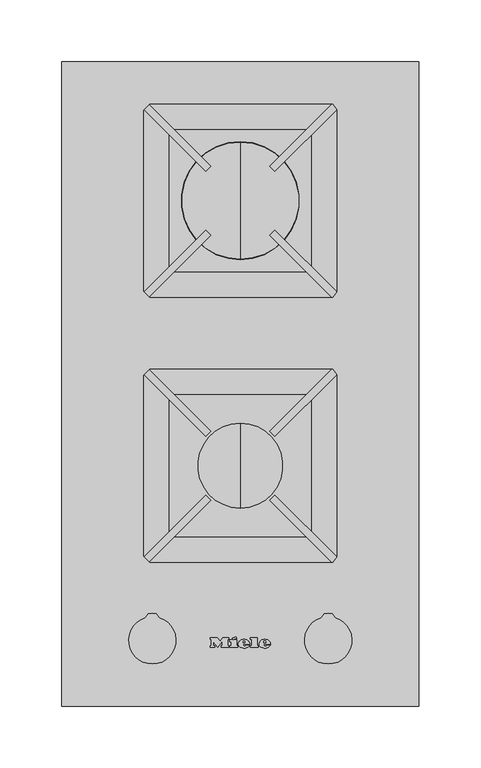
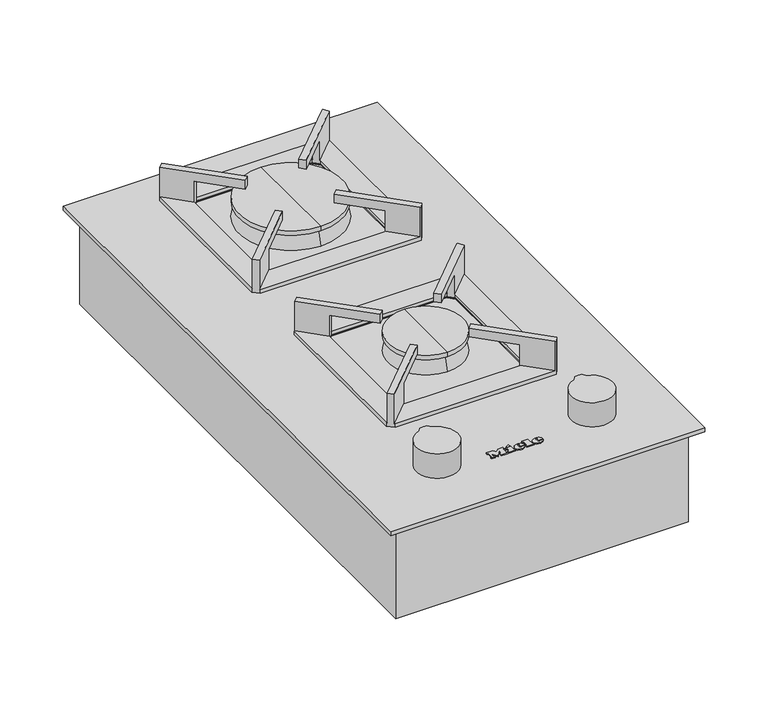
"""IFC4 building model written with IfcOpenShell, lengths in millimetres: proxy geometry, 12303270_SG_CS7152FL : 27715250_SG_12303270_CS7152FL."""

from ifc_helpers import new_model, si_unit, point, frame, frame_2d, origin, origin_with_axes, place, context, project, spatial, polyline, circle_curve, ellipse_curve, trimmed, segment, composite_curve, outline, extrude, faceted_brep, source, transform, mapped, element, save
from ifc_brep_helpers import plane_surface, cylinder_surface, revolved_surface, extruded_surface, advanced_brep


def specialty_equipment_82d7ef67(model_context):
    return source(origin(), model_context, "Body", "SolidModel", [
        advanced_brep(
        [(19.06, 49.1959995, 4.9919765), (19.06, 50.0039992, 4.9925904), (24.412, 50.0039992, 4.9925904), (15.1, 50.0039992, 4.9925904), (17.3, 47.3, 4.990536), (24.276, 49.1959995, 4.9919765), (21.86, 49.1959995, 4.9919765), (19.956, 48.2999997, 4.9912958), (19.06, 51.0279989, 4.9933684), (19.06, 51.8999987, 4.9940309), (20.428, 51.8999987, 4.9940309), (20.428, 51.0279989, 4.9933684), (19.06, 49.1967592, 3.9919768), (19.956, 48.3007595, 3.9912961), (21.86, 49.1967592, 3.9919768), (24.276, 49.1967592, 3.9919768), (17.3, 47.3007598, 3.9905363), (15.1, 50.004759, 3.9925907), (24.412, 50.004759, 3.9925907), (19.06, 50.004759, 3.9925907), (19.06, 51.0287587, 3.9933687), (20.428, 51.0287587, 3.9933687), (20.428, 51.9007584, 3.9940312), (19.06, 51.9007584, 3.9940312)],
        [
            (0, 1),
            (1, 2),
            (2, 3, ellipse_curve(frame((19.756, 50.0039992, 4.9925904), z_axis=(0.0, -0.0007597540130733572, 0.9999997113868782), x_axis=(-1.0, 0.0, 0.0)), 4.656, 3.848)),
            (3, 4, circle_curve(frame((18.1960436, 50.2759991, 4.9927971), z_axis=(0.0, -0.0007597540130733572, 0.9999997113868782), x_axis=(0.0, -0.9999997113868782, -0.0007597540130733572)), 3.1079688)),
            (4, 5, circle_curve(frame((19.6627936, 52.3879985, 4.9944017), z_axis=(0.0, -0.0007597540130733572, 0.9999997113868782), x_axis=(0.0, -0.9999997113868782, -0.0007597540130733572)), 5.6098607)),
            (5, 6),
            (6, 7, circle_curve(frame((20.3470588, 49.9399992, 4.9925418), z_axis=(0.0, 0.0007597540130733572, -0.9999997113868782), x_axis=(0.0, -0.9999997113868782, -0.0007597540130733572)), 1.6859795)),
            (7, 0, circle_curve(frame((19.956, 49.1959995, 4.9919765), z_axis=(0.0, 0.0007597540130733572, -0.9999997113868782), x_axis=(0.0, -0.9999997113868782, -0.0007597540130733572)), 0.896)),
            (8, 9),
            (9, 10, circle_curve(frame((19.744, 51.8999987, 4.9940309), z_axis=(0.0, 0.0007597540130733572, -0.9999997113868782), x_axis=(0.0, -0.9999997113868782, -0.0007597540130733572)), 0.684)),
            (10, 11),
            (11, 8),
            (12, 13, circle_curve(frame((19.956, 49.1967592, 3.9919768), z_axis=(0.0, -0.0007597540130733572, 0.9999997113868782), x_axis=(0.0, -0.9999997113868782, -0.0007597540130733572)), 0.896)),
            (13, 14, circle_curve(frame((20.3470588, 49.940759, 3.9925421), z_axis=(0.0, -0.0007597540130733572, 0.9999997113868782), x_axis=(0.0, -0.9999997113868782, -0.0007597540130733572)), 1.6859795)),
            (14, 15),
            (15, 16, circle_curve(frame((19.6627936, 52.3887583, 3.994402), z_axis=(0.0, 0.0007597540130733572, -0.9999997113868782), x_axis=(0.0, -0.9999997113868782, -0.0007597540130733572)), 5.6098607)),
            (16, 17, circle_curve(frame((18.1960436, 50.2767589, 3.9927974), z_axis=(0.0, 0.0007597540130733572, -0.9999997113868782), x_axis=(0.0, -0.9999997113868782, -0.0007597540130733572)), 3.1079688)),
            (17, 18, ellipse_curve(frame((19.756, 50.004759, 3.9925907), z_axis=(0.0, 0.0007597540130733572, -0.9999997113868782), x_axis=(-1.0, 0.0, 0.0)), 4.656, 3.848)),
            (18, 19),
            (19, 12),
            (20, 21),
            (21, 22),
            (22, 23, circle_curve(frame((19.744, 51.9007584, 3.9940312), z_axis=(0.0, -0.0007597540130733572, 0.9999997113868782), x_axis=(0.0, -0.9999997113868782, -0.0007597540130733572)), 0.684)),
            (23, 20),
            (0, 12),
            (19, 1),
            (18, 2),
            (5, 15),
            (14, 6),
            (17, 3),
            (13, 7),
            (16, 4),
            (8, 20),
            (23, 9),
            (22, 10),
            (21, 11),
        ],
        [
            plane_surface(frame((19.06, 50.0039992, 4.9925904), z_axis=(0.0, -0.0007597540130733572, 0.9999997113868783), x_axis=(0.0, 0.9999997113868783, 0.0007597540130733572))),
            plane_surface(frame((19.06, 50.004759, 3.9925907), z_axis=(0.0, 0.0007597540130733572, -0.9999997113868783), x_axis=(0.0, -0.9999997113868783, -0.0007597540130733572))),
            plane_surface(frame((19.06, 49.1959995, 4.9919765), z_axis=(1.0, 0.0, 0.0), x_axis=(0.0, 0.0007597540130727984, -0.9999997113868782))),
            plane_surface(frame((19.06, 50.0039992, 4.9925904), z_axis=(0.0, -0.9999997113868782, -0.0007597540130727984), x_axis=(0.0, 0.0007597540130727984, -0.9999997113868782))),
            plane_surface(frame((24.276, 49.1959995, 4.9919765), z_axis=(0.0, 0.9999997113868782, 0.0007597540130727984), x_axis=(0.0, 0.0007597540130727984, -0.9999997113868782))),
            extruded_surface(trimmed(ellipse_curve(frame((19.756, 50.0055187, 2.992591), z_axis=(0.0, -0.0007597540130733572, 0.9999997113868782), x_axis=(-1.0, 0.0, 0.0)), 4.656, 3.848), [point((24.412, 50.0055187, 2.992591))], [point((15.1, 50.0055187, 2.992591))], True, "CARTESIAN"), (0.0, -0.0007597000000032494, 0.9999997), 0.9999999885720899),
            revolved_surface(polyline([(20.3470588, 48.25477998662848, 3.9912611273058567), (20.3470588, 48.25402023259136, 4.991260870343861)]), (20.3470588, 49.940759, 3.9925421), (0.0, 0.0007597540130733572, -0.9999997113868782)),
            revolved_surface(polyline([(19.956, 48.30075945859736, 3.9912960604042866), (19.956, 48.29999970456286, 4.991295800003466)]), (19.956, 49.1967592, 3.9919768), (0.0, 0.0007597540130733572, -0.9999997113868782)),
            cylinder_surface(frame((18.1960436, 50.2767589, 3.9927974), z_axis=(0.0, -0.0007597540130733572, 0.9999997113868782), x_axis=(0.0, -0.9999997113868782, -0.0007597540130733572)), 3.1079688),
            cylinder_surface(frame((19.6627936, 52.3887583, 3.994402), z_axis=(0.0, -0.0007597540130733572, 0.9999997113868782), x_axis=(0.0, -0.9999997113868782, -0.0007597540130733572)), 5.6098607),
            plane_surface(frame((19.06, 51.0279989, 4.9933684), z_axis=(1.0, 0.0, 0.0), x_axis=(0.0, 0.0007597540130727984, -0.9999997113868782))),
            revolved_surface(polyline([(19.744, 51.21675859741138, 3.9935115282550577), (19.744, 51.215998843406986, 4.993511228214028)]), (19.744, 51.9007584, 3.9940312), (0.0, 0.0007597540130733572, -0.9999997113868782)),
            plane_surface(frame((20.428, 51.8999987, 4.9940309), z_axis=(-1.0, 0.0, 0.0), x_axis=(0.0, 0.0007597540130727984, -0.9999997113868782))),
            plane_surface(frame((20.428, 51.0279989, 4.9933684), z_axis=(0.0, 0.9999997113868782, 0.0007597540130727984), x_axis=(0.0, 0.0007597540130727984, -0.9999997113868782))),
        ],
        [
            (0, [[1, 2, 3, 4, 5, 6, 7, 8], [9, 10, 11, 12]]),
            (1, [[13, 14, 15, 16, 17, 18, 19, 20], [21, 22, 23, 24]]),
            (2, [[-1, 25, -20, 26]]),
            (3, [[-2, -26, -19, 27]]),
            (4, [[-6, 28, -15, 29]]),
            (5, [[-3, -27, -18, 30]]),
            (6, [[-7, -29, -14, 31]]),
            (7, [[-8, -31, -13, -25]]),
            (8, [[-4, -30, -17, 32]]),
            (9, [[-5, -32, -16, -28]]),
            (10, [[-9, 33, -24, 34]]),
            (11, [[-10, -34, -23, 35]]),
            (12, [[-11, -35, -22, 36]]),
            (13, [[-12, -36, -21, -33]]),
        ],
    ),
        advanced_brep(
        [(2.364, 49.1959995, 4.9919765), (2.364, 50.0039992, 4.9925904), (7.716, 50.0039992, 4.9925904), (-1.596, 50.0039992, 4.9925904), (0.604, 47.3, 4.990536), (7.58, 49.1959995, 4.9919765), (5.164, 49.1959995, 4.9919765), (3.26, 48.2999997, 4.9912958), (2.364, 51.0279989, 4.9933684), (2.364, 51.8999987, 4.9940309), (3.732, 51.8999987, 4.9940309), (3.732, 51.0279989, 4.9933684), (2.364, 49.1967592, 3.9919768), (3.26, 48.3007595, 3.9912961), (5.164, 49.1967592, 3.9919768), (7.58, 49.1967592, 3.9919768), (0.604, 47.3007598, 3.9905363), (-1.596, 50.004759, 3.9925907), (7.716, 50.004759, 3.9925907), (2.364, 50.004759, 3.9925907), (2.364, 51.0287587, 3.9933687), (3.732, 51.0287587, 3.9933687), (3.732, 51.9007584, 3.9940312), (2.364, 51.9007584, 3.9940312)],
        [
            (0, 1),
            (1, 2),
            (2, 3, ellipse_curve(frame((3.06, 50.0039992, 4.9925904), z_axis=(0.0, -0.0007597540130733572, 0.9999997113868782), x_axis=(-1.0, 0.0, 0.0)), 4.656, 3.848)),
            (3, 4, circle_curve(frame((1.5000436, 50.2759991, 4.9927971), z_axis=(0.0, -0.0007597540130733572, 0.9999997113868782), x_axis=(0.0, -0.9999997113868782, -0.0007597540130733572)), 3.1079688)),
            (4, 5, circle_curve(frame((2.9667936, 52.3879985, 4.9944017), z_axis=(0.0, -0.0007597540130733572, 0.9999997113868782), x_axis=(0.0, -0.9999997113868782, -0.0007597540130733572)), 5.6098607)),
            (5, 6),
            (6, 7, circle_curve(frame((3.6510588, 49.9399992, 4.9925418), z_axis=(0.0, 0.0007597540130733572, -0.9999997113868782), x_axis=(0.0, -0.9999997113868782, -0.0007597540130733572)), 1.6859795)),
            (7, 0, circle_curve(frame((3.26, 49.1959995, 4.9919765), z_axis=(0.0, 0.0007597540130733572, -0.9999997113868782), x_axis=(0.0, -0.9999997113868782, -0.0007597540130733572)), 0.896)),
            (8, 9),
            (9, 10, circle_curve(frame((3.048, 51.8999987, 4.9940309), z_axis=(0.0, 0.0007597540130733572, -0.9999997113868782), x_axis=(0.0, -0.9999997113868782, -0.0007597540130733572)), 0.684)),
            (10, 11),
            (11, 8),
            (12, 13, circle_curve(frame((3.26, 49.1967592, 3.9919768), z_axis=(0.0, -0.0007597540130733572, 0.9999997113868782), x_axis=(0.0, -0.9999997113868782, -0.0007597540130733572)), 0.896)),
            (13, 14, circle_curve(frame((3.6510588, 49.940759, 3.9925421), z_axis=(0.0, -0.0007597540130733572, 0.9999997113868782), x_axis=(0.0, -0.9999997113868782, -0.0007597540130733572)), 1.6859795)),
            (14, 15),
            (15, 16, circle_curve(frame((2.9667936, 52.3887583, 3.994402), z_axis=(0.0, 0.0007597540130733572, -0.9999997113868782), x_axis=(0.0, -0.9999997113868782, -0.0007597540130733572)), 5.6098607)),
            (16, 17, circle_curve(frame((1.5000436, 50.2767589, 3.9927974), z_axis=(0.0, 0.0007597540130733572, -0.9999997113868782), x_axis=(0.0, -0.9999997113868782, -0.0007597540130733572)), 3.1079688)),
            (17, 18, ellipse_curve(frame((3.06, 50.004759, 3.9925907), z_axis=(0.0, 0.0007597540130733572, -0.9999997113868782), x_axis=(-1.0, 0.0, 0.0)), 4.656, 3.848)),
            (18, 19),
            (19, 12),
            (20, 21),
            (21, 22),
            (22, 23, circle_curve(frame((3.048, 51.9007584, 3.9940312), z_axis=(0.0, -0.0007597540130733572, 0.9999997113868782), x_axis=(0.0, -0.9999997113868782, -0.0007597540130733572)), 0.684)),
            (23, 20),
            (0, 12),
            (19, 1),
            (18, 2),
            (5, 15),
            (14, 6),
            (17, 3),
            (13, 7),
            (16, 4),
            (8, 20),
            (23, 9),
            (22, 10),
            (21, 11),
        ],
        [
            plane_surface(frame((2.364, 50.0039992, 4.9925904), z_axis=(0.0, -0.0007597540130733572, 0.9999997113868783), x_axis=(0.0, 0.9999997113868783, 0.0007597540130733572))),
            plane_surface(frame((2.364, 50.004759, 3.9925907), z_axis=(0.0, 0.0007597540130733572, -0.9999997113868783), x_axis=(0.0, -0.9999997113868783, -0.0007597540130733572))),
            plane_surface(frame((2.364, 49.1959995, 4.9919765), z_axis=(1.0, 0.0, 0.0), x_axis=(0.0, 0.0007597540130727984, -0.9999997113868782))),
            plane_surface(frame((2.364, 50.0039992, 4.9925904), z_axis=(0.0, -0.9999997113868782, -0.0007597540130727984), x_axis=(0.0, 0.0007597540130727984, -0.9999997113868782))),
            plane_surface(frame((7.58, 49.1959995, 4.9919765), z_axis=(0.0, 0.9999997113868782, 0.0007597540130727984), x_axis=(0.0, 0.0007597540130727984, -0.9999997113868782))),
            extruded_surface(trimmed(ellipse_curve(frame((3.06, 50.0055187, 2.992591), z_axis=(0.0, -0.0007597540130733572, 0.9999997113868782), x_axis=(-1.0, 0.0, 0.0)), 4.656, 3.848), [point((7.716, 50.0055187, 2.992591))], [point((-1.596, 50.0055187, 2.992591))], True, "CARTESIAN"), (0.0, -0.0007597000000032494, 0.9999997), 0.9999999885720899),
            revolved_surface(polyline([(3.6510588, 48.25477998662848, 3.9912611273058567), (3.6510588, 48.25402023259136, 4.991260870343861)]), (3.6510588, 49.940759, 3.9925421), (0.0, 0.0007597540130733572, -0.9999997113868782)),
            revolved_surface(polyline([(3.26, 48.30075945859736, 3.9912960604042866), (3.26, 48.29999970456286, 4.991295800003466)]), (3.26, 49.1967592, 3.9919768), (0.0, 0.0007597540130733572, -0.9999997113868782)),
            cylinder_surface(frame((1.5000436, 50.2767589, 3.9927974), z_axis=(0.0, -0.0007597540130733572, 0.9999997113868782), x_axis=(0.0, -0.9999997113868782, -0.0007597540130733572)), 3.1079688),
            cylinder_surface(frame((2.9667936, 52.3887583, 3.994402), z_axis=(0.0, -0.0007597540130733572, 0.9999997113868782), x_axis=(0.0, -0.9999997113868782, -0.0007597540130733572)), 5.6098607),
            plane_surface(frame((2.364, 51.0279989, 4.9933684), z_axis=(1.0, 0.0, 0.0), x_axis=(0.0, 0.0007597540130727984, -0.9999997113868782))),
            revolved_surface(polyline([(3.048, 51.21675859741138, 3.9935115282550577), (3.048, 51.215998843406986, 4.993511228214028)]), (3.048, 51.9007584, 3.9940312), (0.0, 0.0007597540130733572, -0.9999997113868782)),
            plane_surface(frame((3.732, 51.8999987, 4.9940309), z_axis=(-1.0, 0.0, 0.0), x_axis=(0.0, 0.0007597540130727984, -0.9999997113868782))),
            plane_surface(frame((3.732, 51.0279989, 4.9933684), z_axis=(0.0, 0.9999997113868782, 0.0007597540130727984), x_axis=(0.0, 0.0007597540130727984, -0.9999997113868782))),
        ],
        [
            (0, [[1, 2, 3, 4, 5, 6, 7, 8], [9, 10, 11, 12]]),
            (1, [[13, 14, 15, 16, 17, 18, 19, 20], [21, 22, 23, 24]]),
            (2, [[-1, 25, -20, 26]]),
            (3, [[-2, -26, -19, 27]]),
            (4, [[-6, 28, -15, 29]]),
            (5, [[-3, -27, -18, 30]]),
            (6, [[-7, -29, -14, 31]]),
            (7, [[-8, -31, -13, -25]]),
            (8, [[-4, -30, -17, 32]]),
            (9, [[-5, -32, -16, -28]]),
            (10, [[-9, 33, -24, 34]]),
            (11, [[-10, -34, -23, 35]]),
            (12, [[-11, -35, -22, 36]]),
            (13, [[-12, -36, -21, -33]]),
        ],
    ),
        extrude(outline(polyline([(0.0, 0.0), (-0.0109086, -2.9993294), (-1.4390415, -2.9920868), (-1.4315306, 0.0), (0.0, 0.0)])), frame((-6.38, 54.8287576, 3.9962558), z_axis=(0.0, -0.0007597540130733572, 0.9999997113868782), x_axis=(-0.42472021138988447, 0.9053243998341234, 0.0006878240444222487)), (0.0, 0.0, 1.0), 1.0),
        extrude(outline(polyline([(-0.4933908, 2.4141097), (-2.7800844, -2.4601583), (-7.0459742, -0.4588767), (-7.4401145, -1.2990179), (-8.6568709, -0.728194), (-5.9760369, 4.9862153), (-4.7592806, 4.4153913), (-5.1636142, 3.5535222), (-2.1941494, 2.16044), (-1.7898157, 3.022309), (-0.4933908, 2.4141097)])), frame((-6.38, 54.8287576, 3.9962558), z_axis=(0.0, -0.0007597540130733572, 0.9999997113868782), x_axis=(-0.42472021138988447, 0.9053243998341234, 0.0006878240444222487)), (0.0, 0.0, 1.0), 1.0),
        extrude(outline(polyline([(0.0, 0.0), (0.0, -1.304), (-5.504, -1.304), (-5.504, 5.3519999), (-6.488, 5.3519999), (-6.488, 6.6959999), (0.0, 6.6959999), (0.0, 5.3519999), (-0.96, 5.3519999), (-0.96, 0.0), (0.0, 0.0)])), frame((8.164, 53.9967578, 3.9956236), z_axis=(0.0, -0.0007597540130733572, 0.9999997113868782), x_axis=(-1.0, 0.0, 0.0)), (0.0, 0.0, 1.0), 1.0),
        extrude(outline(polyline([(0.0, 0.0), (0.0, -1.304), (-5.576, -1.304), (-7.92, 1.696), (-10.256, -1.304), (-15.128, -1.304), (-15.128, 0.0), (-14.112, 0.0), (-14.112, 5.3519999), (-15.128, 5.3519999), (-15.128, 6.6959999), (-8.744, 6.6959999), (-8.744, 5.3519999), (-9.728, 5.3519999), (-9.728, 1.8807776), (-6.136, 6.6959999), (-2.56, 1.9488753), (-2.56, 5.3519999), (-3.52, 5.3519999), (-3.52, 6.6959999), (0.0, 6.6959999), (0.0, 5.3519999), (-0.968, 5.3519999), (-0.968, 0.0), (0.0, 0.0)])), frame((-24.3, 53.9967578, 3.9956236), z_axis=(0.0, -0.0007597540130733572, 0.9999997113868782), x_axis=(-1.0, 0.0, 0.0)), (0.0, 0.0, 1.0), 1.0),
        extrude(outline(composite_curve([segment(polyline([(-76.6016767, 71.1554735), (-74.3, 74.5)]), True, "CONTINUOUS"), segment(trimmed(circle_curve(frame_2d((-71.0, 53.0)), 21.7517815), [point((-74.3, 74.5))], [point((-67.7, 74.5))], False, "CARTESIAN"), True, "CONTINUOUS"), segment(polyline([(-67.7, 74.5), (-65.3983233, 71.1554735)]), True, "CONTINUOUS"), segment(trimmed(circle_curve(frame_2d((-71.0, 53.0)), 19.0), [point((-65.3983233, 71.1554735))], [point((-76.6016767, 71.1554735))], False, "CARTESIAN"), True, "CONTINUOUS")], self_intersect=False)), frame((0.0, 0.0, 11.5), z_axis=(0.0, 0.0, 1.0), x_axis=(1.0, 0.0, 0.0)), (0.0, 0.0, 1.0), 23.5),
        extrude(outline(composite_curve([segment(trimmed(circle_curve(frame_2d((71.0, 53.0)), 7.5), [point((63.5, 53.0))], [point((78.5, 53.0))], False, "CARTESIAN"), True, "CONTINUOUS"), segment(trimmed(circle_curve(frame_2d((71.0, 53.0)), 7.5), [point((78.5, 53.0))], [point((63.5, 53.0))], False, "CARTESIAN"), True, "CONTINUOUS")], self_intersect=False)), frame((0.0, 0.0, 4.0), z_axis=(0.0, 0.0, 1.0), x_axis=(1.0, 0.0, 0.0)), (0.0, 0.0, 1.0), 7.5),
        extrude(outline(composite_curve([segment(trimmed(circle_curve(frame_2d((-71.0, 53.0)), 7.5), [point((-78.5, 53.0))], [point((-63.5, 53.0))], False, "CARTESIAN"), True, "CONTINUOUS"), segment(trimmed(circle_curve(frame_2d((-71.0, 53.0)), 7.5), [point((-63.5, 53.0))], [point((-78.5, 53.0))], False, "CARTESIAN"), True, "CONTINUOUS")], self_intersect=False)), frame((0.0, 0.0, 4.0), z_axis=(0.0, 0.0, 1.0), x_axis=(1.0, 0.0, 0.0)), (0.0, 0.0, 1.0), 7.5),
        extrude(outline(composite_curve([segment(polyline([(65.3983233, 71.1554735), (67.7, 74.5)]), True, "CONTINUOUS"), segment(trimmed(circle_curve(frame_2d((71.0, 53.0)), 21.7517815), [point((67.7, 74.5))], [point((74.3, 74.5))], False, "CARTESIAN"), True, "CONTINUOUS"), segment(polyline([(74.3, 74.5), (76.6016767, 71.1554735)]), True, "CONTINUOUS"), segment(trimmed(circle_curve(frame_2d((71.0, 53.0)), 19.0), [point((76.6016767, 71.1554735))], [point((65.3983233, 71.1554735))], False, "CARTESIAN"), True, "CONTINUOUS")], self_intersect=False)), frame((0.0, 0.0, 11.5), z_axis=(0.0, 0.0, 1.0), x_axis=(1.0, 0.0, 0.0)), (0.0, 0.0, 1.0), 23.5),
        advanced_brep(
        [(0.0, 408.0, 7.8), (0.0, 377.4, 7.8), (0.0, 438.6, 7.8), (0.0, 452.0, 26.5216448), (0.0, 364.0, 26.5216448), (0.0, 408.0, 26.5216448), (0.0, 455.6, 11.9), (0.0, 360.4, 11.9), (0.0, 438.6, 11.9), (0.0, 377.4, 11.9)],
        [
            (0, 1),
            (1, 2, circle_curve(frame((0.0, 408.0, 7.8), z_axis=(0.0, 0.0, -1.0), x_axis=(0.0, -1.0, 0.0)), 30.6)),
            (2, 0),
            (2, 1, circle_curve(frame((0.0, 408.0, 7.8), z_axis=(0.0, 0.0, -1.0), x_axis=(0.0, -1.0, 0.0)), 30.6)),
            (3, 4, circle_curve(frame((0.0, 408.0, 26.5216448), z_axis=(0.0, 0.0, 1.0), x_axis=(0.0, -1.0, 0.0)), 44.0)),
            (4, 5),
            (5, 3),
            (4, 3, circle_curve(frame((0.0, 408.0, 26.5216448), z_axis=(0.0, 0.0, 1.0), x_axis=(0.0, -1.0, 0.0)), 44.0)),
            (6, 7, circle_curve(frame((0.0, 408.0, 11.9), z_axis=(0.0, 0.0, 1.0), x_axis=(0.0, -1.0, 0.0)), 47.6)),
            (7, 4),
            (3, 6),
            (7, 6, circle_curve(frame((0.0, 408.0, 11.9), z_axis=(0.0, 0.0, 1.0), x_axis=(0.0, -1.0, 0.0)), 47.6)),
            (8, 9, circle_curve(frame((0.0, 408.0, 11.9), z_axis=(0.0, 0.0, 1.0), x_axis=(0.0, -1.0, 0.0)), 30.6)),
            (9, 7),
            (6, 8),
            (9, 8, circle_curve(frame((0.0, 408.0, 11.9), z_axis=(0.0, 0.0, 1.0), x_axis=(0.0, -1.0, 0.0)), 30.6)),
            (1, 9),
            (8, 2),
        ],
        [
            plane_surface(frame((0.0, 408.0, 7.8), z_axis=(0.0, 0.0, -1.0), x_axis=(0.0, -1.0, 0.0))),
            plane_surface(frame((0.0, 408.0, 26.5216448), z_axis=(0.0, 0.0, 1.0), x_axis=(0.0, -1.0, 0.0))),
            revolved_surface(polyline([(0.0, 364.0, 26.5216448), (0.0, 360.4, 11.9)]), (0.0, 408.0, 2380.4), (0.0, 0.0, -1.0)),
            plane_surface(frame((0.0, 408.0, 11.9), z_axis=(0.0, 0.0, -1.0), x_axis=(0.0, -1.0, 0.0))),
            cylinder_surface(frame((0.0, 408.0, 2380.4), z_axis=(0.0, 0.0, -1.0), x_axis=(0.0, -1.0, 0.0)), 30.6),
        ],
        [
            (0, [[1, 2, 3]]),
            (0, [[-3, 4, -1]]),
            (1, [[5, 6, 7]]),
            (1, [[8, -7, -6]]),
            (2, [[9, 10, -5, 11]]),
            (2, [[12, -11, -8, -10]]),
            (3, [[13, 14, -9, 15]]),
            (3, [[16, -15, -12, -14]]),
            (4, [[-2, 17, -13, 18]]),
            (4, [[-4, -18, -16, -17]]),
        ],
    ),
        advanced_brep(
        [(0.0, 194.0, 7.8), (0.0, 172.0, 7.8), (0.0, 216.0, 7.8), (0.0, 224.8, 26.5216448), (0.0, 163.2, 26.5216448), (0.0, 194.0, 26.5216448), (0.0, 228.25, 11.9), (0.0, 159.75, 11.9), (0.0, 216.0, 11.9), (0.0, 172.0, 11.9)],
        [
            (0, 1),
            (1, 2, circle_curve(frame((0.0, 194.0, 7.8), z_axis=(0.0, 0.0, -1.0), x_axis=(0.0, -1.0, 0.0)), 22.0)),
            (2, 0),
            (2, 1, circle_curve(frame((0.0, 194.0, 7.8), z_axis=(0.0, 0.0, -1.0), x_axis=(0.0, -1.0, 0.0)), 22.0)),
            (3, 4, circle_curve(frame((0.0, 194.0, 26.5216448), z_axis=(0.0, 0.0, 1.0), x_axis=(0.0, -1.0, 0.0)), 30.8)),
            (4, 5),
            (5, 3),
            (4, 3, circle_curve(frame((0.0, 194.0, 26.5216448), z_axis=(0.0, 0.0, 1.0), x_axis=(0.0, -1.0, 0.0)), 30.8)),
            (6, 7, circle_curve(frame((0.0, 194.0, 11.9), z_axis=(0.0, 0.0, 1.0), x_axis=(0.0, -1.0, 0.0)), 34.25)),
            (7, 4),
            (3, 6),
            (7, 6, circle_curve(frame((0.0, 194.0, 11.9), z_axis=(0.0, 0.0, 1.0), x_axis=(0.0, -1.0, 0.0)), 34.25)),
            (8, 9, circle_curve(frame((0.0, 194.0, 11.9), z_axis=(0.0, 0.0, 1.0), x_axis=(0.0, -1.0, 0.0)), 22.0)),
            (9, 7),
            (6, 8),
            (9, 8, circle_curve(frame((0.0, 194.0, 11.9), z_axis=(0.0, 0.0, 1.0), x_axis=(0.0, -1.0, 0.0)), 22.0)),
            (1, 9),
            (8, 2),
        ],
        [
            plane_surface(frame((0.0, 194.0, 7.8), z_axis=(0.0, 0.0, -1.0), x_axis=(0.0, -1.0, 0.0))),
            plane_surface(frame((0.0, 194.0, 26.5216448), z_axis=(0.0, 0.0, 1.0), x_axis=(0.0, -1.0, 0.0))),
            revolved_surface(polyline([(0.0, 163.2, 26.5216448), (0.0, 159.75, 11.9)]), (0.0, 194.0, 2380.4), (0.0, 0.0, -1.0)),
            plane_surface(frame((0.0, 194.0, 11.9), z_axis=(0.0, 0.0, -1.0), x_axis=(0.0, -1.0, 0.0))),
            cylinder_surface(frame((0.0, 194.0, 2380.4), z_axis=(0.0, 0.0, -1.0), x_axis=(0.0, -1.0, 0.0)), 22.0),
        ],
        [
            (0, [[1, 2, 3]]),
            (0, [[-3, 4, -1]]),
            (1, [[5, 6, 7]]),
            (1, [[8, -7, -6]]),
            (2, [[9, 10, -5, 11]]),
            (2, [[12, -11, -8, -10]]),
            (3, [[13, 14, -9, 15]]),
            (3, [[16, -15, -12, -14]]),
            (4, [[-2, 17, -13, 18]]),
            (4, [[-4, -18, -16, -17]]),
        ],
    ),
        advanced_brep(
        [(0.0, 455.25, 30.8716448), (0.0, 360.75, 30.8716448), (0.0, 408.0, 30.8716448), (0.0, 455.25, 26.5216448), (0.0, 360.75, 26.5216448), (0.0, 408.0, 26.5216448)],
        [
            (0, 1, circle_curve(frame((0.0, 408.0, 30.8716448), z_axis=(0.0, 0.0, 1.0), x_axis=(0.0, -1.0, 0.0)), 47.25)),
            (1, 2),
            (2, 0),
            (1, 0, circle_curve(frame((0.0, 408.0, 30.8716448), z_axis=(0.0, 0.0, 1.0), x_axis=(0.0, -1.0, 0.0)), 47.25)),
            (3, 4, circle_curve(frame((0.0, 408.0, 26.5216448), z_axis=(0.0, 0.0, 1.0), x_axis=(0.0, -1.0, 0.0)), 47.25)),
            (4, 1),
            (0, 3),
            (4, 3, circle_curve(frame((0.0, 408.0, 26.5216448), z_axis=(0.0, 0.0, 1.0), x_axis=(0.0, -1.0, 0.0)), 47.25)),
            (5, 4),
            (3, 5),
        ],
        [
            plane_surface(frame((0.0, 408.0, 30.8716448), z_axis=(0.0, 0.0, 1.0), x_axis=(0.0, -1.0, 0.0))),
            cylinder_surface(frame((0.0, 408.0, 2438.9), z_axis=(0.0, 0.0, -1.0), x_axis=(0.0, -1.0, 0.0)), 47.25),
            plane_surface(frame((0.0, 408.0, 26.5216448), z_axis=(0.0, 0.0, -1.0), x_axis=(0.0, -1.0, 0.0))),
        ],
        [
            (0, [[1, 2, 3]]),
            (0, [[4, -3, -2]]),
            (1, [[5, 6, -1, 7]]),
            (1, [[8, -7, -4, -6]]),
            (2, [[9, -5, 10]]),
            (2, [[-10, -8, -9]]),
        ],
    ),
        advanced_brep(
        [(0.0, 228.25, 30.85), (0.0, 159.75, 30.85), (0.0, 194.0, 30.85), (0.0, 228.25, 26.5216448), (0.0, 159.75, 26.5216448), (0.0, 194.0, 26.5216448)],
        [
            (0, 1, circle_curve(frame((0.0, 194.0, 30.85), z_axis=(0.0, 0.0, 1.0), x_axis=(0.0, -1.0, 0.0)), 34.25)),
            (1, 2),
            (2, 0),
            (1, 0, circle_curve(frame((0.0, 194.0, 30.85), z_axis=(0.0, 0.0, 1.0), x_axis=(0.0, -1.0, 0.0)), 34.25)),
            (3, 4, circle_curve(frame((0.0, 194.0, 26.5216448), z_axis=(0.0, 0.0, 1.0), x_axis=(0.0, -1.0, 0.0)), 34.25)),
            (4, 1),
            (0, 3),
            (4, 3, circle_curve(frame((0.0, 194.0, 26.5216448), z_axis=(0.0, 0.0, 1.0), x_axis=(0.0, -1.0, 0.0)), 34.25)),
            (5, 4),
            (3, 5),
        ],
        [
            plane_surface(frame((0.0, 194.0, 30.85), z_axis=(0.0, 0.0, 1.0), x_axis=(0.0, -1.0, 0.0))),
            cylinder_surface(frame((0.0, 194.0, 2438.9), z_axis=(0.0, 0.0, -1.0), x_axis=(0.0, -1.0, 0.0)), 34.25),
            plane_surface(frame((0.0, 194.0, 26.5216448), z_axis=(0.0, 0.0, -1.0), x_axis=(0.0, -1.0, 0.0))),
        ],
        [
            (0, [[1, 2, 3]]),
            (0, [[4, -3, -2]]),
            (1, [[5, 6, -1, 7]]),
            (1, [[8, -7, -4, -6]]),
            (2, [[9, -5, 10]]),
            (2, [[-10, -8, -9]]),
        ],
    ),
        faceted_brep([(67.9, 475.9, 4.0), (67.9, 340.1, 4.0), (-67.9, 340.1, 4.0), (-67.9, 475.9, 4.0), (67.9, 475.9, 10.0), (-67.9, 475.9, 10.0), (-67.9, 340.1, 10.0), (67.9, 340.1, 10.0), (57.85, 460.85, 10.0), (57.85, 355.15, 10.0), (52.85, 350.15, 10.0), (-52.85, 350.15, 10.0), (-57.85, 355.15, 10.0), (-57.85, 460.85, 10.0), (-52.85, 465.85, 10.0), (52.85, 465.85, 10.0), (52.85, 465.85, 9.0), (-52.85, 465.85, 9.0), (-57.85, 460.85, 9.0), (-57.85, 355.15, 9.0), (-52.85, 350.15, 9.0), (52.85, 350.15, 9.0), (57.85, 355.15, 9.0), (57.85, 460.85, 9.0)], [[[0, 1, 2, 3]], [[4, 5, 6, 7], [8, 9, 10, 11, 12, 13, 14, 15]], [[0, 3, 5, 4]], [[3, 2, 6, 5]], [[2, 1, 7, 6]], [[1, 0, 4, 7]], [[16, 17, 18, 19, 20, 21, 22, 23]], [[23, 22, 9, 8]], [[21, 20, 11, 10]], [[19, 18, 13, 12]], [[17, 16, 15, 14]], [[16, 23, 8, 15]], [[22, 21, 10, 9]], [[20, 19, 12, 11]], [[18, 17, 14, 13]]]),
        faceted_brep([(67.9, 261.9, 4.0), (67.9, 126.1, 4.0), (-67.9, 126.1, 4.0), (-67.9, 261.9, 4.0), (67.9, 261.9, 10.0), (-67.9, 261.9, 10.0), (-67.9, 126.1, 10.0), (67.9, 126.1, 10.0), (57.85, 246.85, 10.0), (57.85, 141.15, 10.0), (52.85, 136.15, 10.0), (-52.85, 136.15, 10.0), (-57.85, 141.15, 10.0), (-57.85, 246.85, 10.0), (-52.85, 251.85, 10.0), (52.85, 251.85, 10.0), (52.85, 251.85, 9.0), (-52.85, 251.85, 9.0), (-57.85, 246.85, 9.0), (-57.85, 141.15, 9.0), (-52.85, 136.15, 9.0), (52.85, 136.15, 9.0), (57.85, 141.15, 9.0), (57.85, 246.85, 9.0)], [[[0, 1, 2, 3]], [[4, 5, 6, 7], [8, 9, 10, 11, 12, 13, 14, 15]], [[0, 3, 5, 4]], [[3, 2, 6, 5]], [[2, 1, 7, 6]], [[1, 0, 4, 7]], [[16, 17, 18, 19, 20, 21, 22, 23]], [[23, 22, 9, 8]], [[21, 20, 11, 10]], [[19, 18, 13, 12]], [[17, 16, 15, 14]], [[16, 23, 8, 15]], [[22, 21, 10, 9]], [[20, 19, 12, 11]], [[18, 17, 14, 13]]]),
        extrude(outline(polyline([(144.0, 520.0), (144.0, 0.0), (-144.0, 0.0), (-144.0, 520.0), (144.0, 520.0)])), origin_with_axes(), (0.0, 0.0, 1.0), 4.0),
        faceted_brep([(74.5372854, 486.0, 42.0), (73.7573593, 486.0, 42.0), (23.6886797, 435.9313203, 42.0), (27.9313203, 431.6886797, 42.0), (77.690109, 481.4474683, 42.0), (73.7573593, 330.0, 42.0), (74.5372854, 330.0, 42.0), (77.690109, 334.5525317, 42.0), (27.9313203, 384.3113203, 42.0), (23.6886797, 380.0686797, 42.0), (-73.3786797, 485.6213203, 42.0), (-77.6213203, 481.3786797, 42.0), (-27.9313203, 431.6886797, 42.0), (-23.6886797, 435.9313203, 42.0), (-77.6213203, 334.6213203, 42.0), (-73.3786797, 330.3786797, 42.0), (-23.6886797, 380.0686797, 42.0), (-27.9313203, 384.3113203, 42.0), (74.5372854, 486.0, 10.0), (78.0, 481.0, 10.0), (78.0, 335.0, 10.0), (74.5372854, 330.0, 10.0), (-73.0, 330.0, 10.0), (-78.0, 335.0, 10.0), (-78.0, 481.0, 10.0), (-73.0, 486.0, 10.0), (57.85, 355.15, 10.0), (57.85, 460.85, 10.0), (52.85, 465.85, 10.0), (-52.85, 465.85, 10.0), (-57.85, 460.85, 10.0), (-57.85, 355.15, 10.0), (-52.85, 350.15, 10.0), (52.85, 350.15, 10.0), (-73.0, 486.0, 13.5), (73.7573593, 486.0, 13.5), (-78.0, 335.0, 13.5), (-78.0, 481.0, 13.5), (73.7573593, 330.0, 13.5), (-73.0, 330.0, 13.5), (78.0, 481.0, 13.5), (78.0, 335.0, 13.5), (-27.9313203, 431.6886797, 33.5), (-23.6886797, 435.9313203, 33.5), (23.6886797, 435.9313203, 33.5), (27.9313203, 431.6886797, 33.5), (27.9313203, 384.3113203, 33.5), (23.6886797, 380.0686797, 33.5), (-23.6886797, 380.0686797, 33.5), (-27.9313203, 384.3113203, 33.5), (-73.3786797, 485.6213203, 13.5), (-53.2286797, 465.4713203, 13.5), (-52.85, 465.85, 13.5), (52.85, 465.85, 13.5), (53.2286797, 465.4713203, 13.5), (-77.6213203, 334.6213203, 13.5), (-57.4713203, 354.7713203, 13.5), (-57.85, 355.15, 13.5), (-57.85, 460.85, 13.5), (-57.4713203, 461.2286797, 13.5), (-77.6213203, 481.3786797, 13.5), (53.2286797, 350.5286797, 13.5), (52.85, 350.15, 13.5), (-52.85, 350.15, 13.5), (-53.2286797, 350.5286797, 13.5), (-73.3786797, 330.3786797, 13.5), (77.690109, 481.4474683, 13.5), (57.4713203, 461.2286797, 13.5), (57.85, 460.85, 13.5), (57.85, 355.15, 13.5), (57.4713203, 354.7713203, 13.5), (77.690109, 334.5525317, 13.5), (53.2286797, 350.5286797, 33.5), (-53.2286797, 350.5286797, 33.5), (57.4713203, 461.2286797, 33.5), (57.4713203, 354.7713203, 33.5), (-53.2286797, 465.4713203, 33.5), (53.2286797, 465.4713203, 33.5), (-57.4713203, 354.7713203, 33.5), (-57.4713203, 461.2286797, 33.5)], [[[0, 1, 2, 3, 4]], [[5, 6, 7, 8, 9]], [[10, 11, 12, 13]], [[14, 15, 16, 17]], [[18, 19, 20, 21, 22, 23, 24, 25], [26, 27, 28, 29, 30, 31, 32, 33]], [[18, 25, 34, 35, 1, 0]], [[24, 23, 36, 37]], [[22, 21, 6, 5, 38, 39]], [[20, 19, 40, 41]], [[13, 12, 42, 43]], [[3, 2, 44, 45]], [[9, 8, 46, 47]], [[17, 16, 48, 49]], [[35, 34, 50, 51, 52, 53, 54]], [[37, 36, 55, 56, 57, 58, 59, 60]], [[39, 38, 61, 62, 63, 64, 65]], [[41, 40, 66, 67, 68, 69, 70, 71]], [[5, 9, 47, 72, 61, 38]], [[16, 15, 65, 64, 73, 48]], [[4, 3, 45, 74, 67, 66]], [[8, 7, 71, 70, 75, 46]], [[10, 13, 43, 76, 51, 50]], [[2, 1, 35, 54, 77, 44]], [[14, 17, 49, 78, 56, 55]], [[12, 11, 60, 59, 79, 42]], [[77, 74, 45, 44]], [[75, 72, 47, 46]], [[73, 78, 49, 48]], [[79, 76, 43, 42]], [[68, 27, 26, 69]], [[62, 33, 32, 63]], [[57, 31, 30, 58]], [[52, 29, 28, 53]], [[74, 77, 54, 53, 28, 27, 68, 67]], [[72, 75, 70, 69, 26, 33, 62, 61]], [[78, 73, 64, 63, 32, 31, 57, 56]], [[76, 79, 59, 58, 30, 29, 52, 51]], [[25, 24, 37, 60, 11, 10, 50, 34]], [[23, 22, 39, 65, 15, 14, 55, 36]], [[21, 20, 41, 71, 7, 6]], [[19, 18, 0, 4, 66, 40]]]),
        faceted_brep([(74.5372854, 272.0, 42.0), (73.7573593, 272.0, 42.0), (23.6886797, 221.9313203, 42.0), (27.9313203, 217.6886797, 42.0), (77.690109, 267.4474683, 42.0), (73.7573593, 116.0, 42.0), (74.5372854, 116.0, 42.0), (77.690109, 120.5525317, 42.0), (27.9313203, 170.3113203, 42.0), (23.6886797, 166.0686797, 42.0), (-73.3786797, 271.6213203, 42.0), (-77.6213203, 267.3786797, 42.0), (-27.9313203, 217.6886797, 42.0), (-23.6886797, 221.9313203, 42.0), (-77.6213203, 120.6213203, 42.0), (-73.3786797, 116.3786797, 42.0), (-23.6886797, 166.0686797, 42.0), (-27.9313203, 170.3113203, 42.0), (74.5372854, 272.0, 10.0), (78.0, 267.0, 10.0), (78.0, 121.0, 10.0), (74.5372854, 116.0, 10.0), (-73.0, 116.0, 10.0), (-78.0, 121.0, 10.0), (-78.0, 267.0, 10.0), (-73.0, 272.0, 10.0), (57.85, 141.15, 10.0), (57.85, 246.85, 10.0), (52.85, 251.85, 10.0), (-52.85, 251.85, 10.0), (-57.85, 246.85, 10.0), (-57.85, 141.15, 10.0), (-52.85, 136.15, 10.0), (52.85, 136.15, 10.0), (-73.0, 272.0, 13.5), (73.7573593, 272.0, 13.5), (-78.0, 121.0, 13.5), (-78.0, 267.0, 13.5), (73.7573593, 116.0, 13.5), (-73.0, 116.0, 13.5), (78.0, 267.0, 13.5), (78.0, 121.0, 13.5), (-27.9313203, 217.6886797, 33.5), (-23.6886797, 221.9313203, 33.5), (23.6886797, 221.9313203, 33.5), (27.9313203, 217.6886797, 33.5), (27.9313203, 170.3113203, 33.5), (23.6886797, 166.0686797, 33.5), (-23.6886797, 166.0686797, 33.5), (-27.9313203, 170.3113203, 33.5), (-73.3786797, 271.6213203, 13.5), (-53.2286797, 251.4713203, 13.5), (-52.85, 251.85, 13.5), (52.85, 251.85, 13.5), (53.2286797, 251.4713203, 13.5), (-77.6213203, 120.6213203, 13.5), (-57.4713203, 140.7713203, 13.5), (-57.85, 141.15, 13.5), (-57.85, 246.85, 13.5), (-57.4713203, 247.2286797, 13.5), (-77.6213203, 267.3786797, 13.5), (53.2286797, 136.5286797, 13.5), (52.85, 136.15, 13.5), (-52.85, 136.15, 13.5), (-53.2286797, 136.5286797, 13.5), (-73.3786797, 116.3786797, 13.5), (77.690109, 267.4474683, 13.5), (57.4713203, 247.2286797, 13.5), (57.85, 246.85, 13.5), (57.85, 141.15, 13.5), (57.4713203, 140.7713203, 13.5), (77.690109, 120.5525317, 13.5), (-53.2286797, 251.4713203, 33.5), (53.2286797, 251.4713203, 33.5), (57.4713203, 247.2286797, 33.5), (57.4713203, 140.7713203, 33.5), (53.2286797, 136.5286797, 33.5), (-53.2286797, 136.5286797, 33.5), (-57.4713203, 140.7713203, 33.5), (-57.4713203, 247.2286797, 33.5)], [[[0, 1, 2, 3, 4]], [[5, 6, 7, 8, 9]], [[10, 11, 12, 13]], [[14, 15, 16, 17]], [[18, 19, 20, 21, 22, 23, 24, 25], [26, 27, 28, 29, 30, 31, 32, 33]], [[18, 25, 34, 35, 1, 0]], [[24, 23, 36, 37]], [[22, 21, 6, 5, 38, 39]], [[20, 19, 40, 41]], [[13, 12, 42, 43]], [[3, 2, 44, 45]], [[9, 8, 46, 47]], [[17, 16, 48, 49]], [[35, 34, 50, 51, 52, 53, 54]], [[37, 36, 55, 56, 57, 58, 59, 60]], [[39, 38, 61, 62, 63, 64, 65]], [[41, 40, 66, 67, 68, 69, 70, 71]], [[10, 13, 43, 72, 51, 50]], [[2, 1, 35, 54, 73, 44]], [[4, 3, 45, 74, 67, 66]], [[8, 7, 71, 70, 75, 46]], [[5, 9, 47, 76, 61, 38]], [[16, 15, 65, 64, 77, 48]], [[14, 17, 49, 78, 56, 55]], [[12, 11, 60, 59, 79, 42]], [[73, 74, 45, 44]], [[75, 76, 47, 46]], [[77, 78, 49, 48]], [[79, 72, 43, 42]], [[68, 27, 26, 69]], [[62, 33, 32, 63]], [[57, 31, 30, 58]], [[52, 29, 28, 53]], [[74, 73, 54, 53, 28, 27, 68, 67]], [[76, 75, 70, 69, 26, 33, 62, 61]], [[78, 77, 64, 63, 32, 31, 57, 56]], [[72, 79, 59, 58, 30, 29, 52, 51]], [[25, 24, 37, 60, 11, 10, 50, 34]], [[23, 22, 39, 65, 15, 14, 55, 36]], [[21, 20, 41, 71, 7, 6]], [[19, 18, 0, 4, 66, 40]]]),
        extrude(outline(polyline([(134.0, 511.0), (134.0, 9.0), (-134.0, 9.0), (-134.0, 511.0), (134.0, 511.0)])), frame((0.0, 0.0, -89.0), z_axis=(0.0, 0.0, 1.0), x_axis=(1.0, 0.0, 0.0)), (0.0, 0.0, 1.0), 89.0),
        extrude(outline(polyline([(79.2145456, 471.9848704), (71.8372854, 471.9848704), (71.8372854, 473.2405743), (77.9588418, 473.2405743), (77.9588418, 476.5367969), (72.3081743, 476.5367969), (72.3081743, 477.7925008), (77.9588418, 477.7925008), (77.9588418, 480.7747975), (71.9942483, 480.7747975), (71.9942483, 482.0305014), (79.2145456, 482.0305014), (79.2145456, 471.9848704)])), frame((0.0, 0.0, -120.0), z_axis=(0.0, 0.0, 1.0), x_axis=(1.0, 0.0, 0.0)), (0.0, 0.0, 1.0), 1.0),
        extrude(outline(polyline([(69.9537295, 471.9848704), (63.6752102, 471.9848704), (63.6752102, 473.2405743), (68.6980257, 473.2405743), (68.6980257, 482.0305014), (69.9537295, 482.0305014), (69.9537295, 471.9848704)])), frame((0.0, 0.0, -120.0), z_axis=(0.0, 0.0, 1.0), x_axis=(1.0, 0.0, 0.0)), (0.0, 0.0, 1.0), 1.0),
        extrude(outline(composite_curve([segment(trimmed(circle_curve(frame_2d((71.8372854, 476.9848704)), 7.5), [point((71.8372854, 484.4848704))], [point((71.8372854, 469.4848704))], False, "CARTESIAN"), True, "CONTINUOUS"), segment(trimmed(circle_curve(frame_2d((71.8372854, 476.9848704)), 7.5), [point((71.8372854, 469.4848704))], [point((71.8372854, 484.4848704))], False, "CARTESIAN"), True, "CONTINUOUS")], self_intersect=False)), frame((0.0, 0.0, -119.0), z_axis=(0.0, 0.0, 1.0), x_axis=(1.0, 0.0, 0.0)), (0.0, 0.0, 1.0), 30.0),
        extrude(outline(polyline([(-85.5151472, 458.9240746), (-88.3404809, 458.9240746), (-88.3404809, 457.1091901), (-87.0688355, 456.4212508), (-85.3508266, 456.0987409), (-83.4366139, 456.5267103), (-82.0631878, 457.8363702), (-81.5910726, 460.0252681), (-81.98348, 461.9971155), (-82.6297261, 462.9646452), (-83.7235619, 463.6758837), (-85.3312062, 463.9468901), (-86.7426468, 463.6955041), (-87.7212129, 463.0259589), (-88.2938825, 461.864678), (-89.4514845, 462.1908667), (-88.6924213, 463.8524671), (-87.3153164, 464.8457485), (-85.3508266, 465.202594), (-82.7069813, 464.5870048), (-80.9472791, 462.7046753), (-80.3353687, 459.9737646), (-80.9497316, 457.3029413), (-82.7695212, 455.4745678), (-85.451381, 454.843037), (-87.5814177, 455.2403496), (-89.5961848, 456.4249296), (-89.5961848, 460.1797785), (-85.5151472, 460.1797785), (-85.5151472, 458.9240746)])), frame((0.0, 0.0, -120.0), z_axis=(0.0, 0.0, 1.0), x_axis=(1.0, 0.0, 0.0)), (0.0, 0.0, 1.0), 1.0),
        extrude(outline(polyline([(-96.1886301, 455.9417779), (-96.5025561, 455.0), (-97.75826, 455.0), (-97.5081002, 456.0558213), (-97.444334, 458.2373616), (-97.444334, 459.7996338), (-97.3830203, 460.8983747), (-96.9979705, 461.7506346), (-96.1383529, 462.3110415), (-94.6165477, 462.5342233), (-92.9598525, 462.281611), (-91.8660167, 461.5630148), (-91.3227776, 460.3367415), (-92.5784815, 460.1797785), (-93.1842605, 461.0369435), (-94.4546797, 461.2785194), (-95.8428211, 460.9155425), (-96.1812725, 459.7088895), (-94.0034111, 459.2772413), (-92.9169329, 459.0883952), (-92.037695, 458.6763674), (-91.4061642, 457.9553187), (-91.1658146, 456.9620373), (-91.8022505, 455.4390058), (-93.6257189, 454.843037), (-94.9709407, 455.0907442), (-96.1886301, 455.9417779)]), holes=[polyline([(-96.1849513, 458.275376), (-95.9826162, 457.1263579), (-95.1634656, 456.3991779), (-93.8930465, 456.0987409), (-93.0824798, 457.8645745), (-94.1628266, 458.0681358), (-96.1849513, 458.275376)])]), frame((0.0, 0.0, -120.0), z_axis=(0.0, 0.0, 1.0), x_axis=(1.0, 0.0, 0.0)), (0.0, 0.0, 1.0), 1.0),
        extrude(outline(polyline([(-98.7000379, 457.1974818), (-99.6614362, 455.4365533), (-101.8515603, 454.843037), (-103.4064749, 455.1508316), (-104.4573911, 456.0227119), (-104.8215943, 457.2244598), (-104.5113471, 458.315843), (-103.6554084, 458.9853883), (-101.8123196, 459.576452), (-100.4732291, 461.0406224), (-101.674977, 461.2785194), (-102.7798492, 461.0295859), (-103.2519644, 460.3367415), (-104.5076683, 460.4937045), (-104.0760201, 461.6206496), (-103.1048116, 462.2877423), (-101.5768751, 462.5342233), (-100.4965283, 462.3809391), (-99.6982244, 462.0093783), (-99.0826352, 461.2944609), (-98.8570009, 460.3588144), (-99.1378175, 459.3459126), (-99.9630994, 458.6285427), (-101.8540129, 458.0141798), (-103.5658904, 457.0920223), (-103.1489575, 456.395499), (-101.8687281, 456.0987409), (-100.5369953, 456.422477), (-99.9557418, 457.3544448), (-98.7000379, 457.1974818)])), frame((0.0, 0.0, -120.0), z_axis=(0.0, 0.0, 1.0), x_axis=(1.0, 0.0, 0.0)), (0.0, 0.0, 1.0), 1.0),
        extrude(outline(polyline([(-92.5, 474.4206351), (-80.0, 452.77), (-105.0, 452.77), (-92.5, 474.4206351)])), frame((0.0, 0.0, -119.0), z_axis=(0.0, 0.0, 1.0), x_axis=(1.0, 0.0, 0.0)), (0.0, 0.0, 1.0), 30.0),
    ])


if __name__ == "__main__":
    model = new_model("IFC4")
    model_context = context("Model", 3, world=origin())
    ifc_project = project(units=[si_unit("LENGTHUNIT", "METRE", prefix="MILLI")], contexts=[model_context])
    site = spatial("IfcSite", under=ifc_project)
    building = spatial("IfcBuilding", under=site)
    placement = place(None, origin())
    specialty_equipment_shape = specialty_equipment_82d7ef67(model_context)
    element("IfcBuildingElementProxy", 1, Name="12303270_SG_CS7152FL : 27715250_SG_12303270_CS7152FL", ObjectType="12303270_SG_CS7152FL : 27715250_SG_12303270_CS7152FL", at=placement, inside=building, context=model_context, shape_type="MappedRepresentation", body=[
        mapped(specialty_equipment_shape, transform((0.0, 0.0, 0.0), x_axis=(1.0, 0.0, 0.0), y_axis=(0.0, 1.0, 0.0), z_axis=(0.0, 0.0, 1.0))),
    ])
    save(model, "model.ifc")
